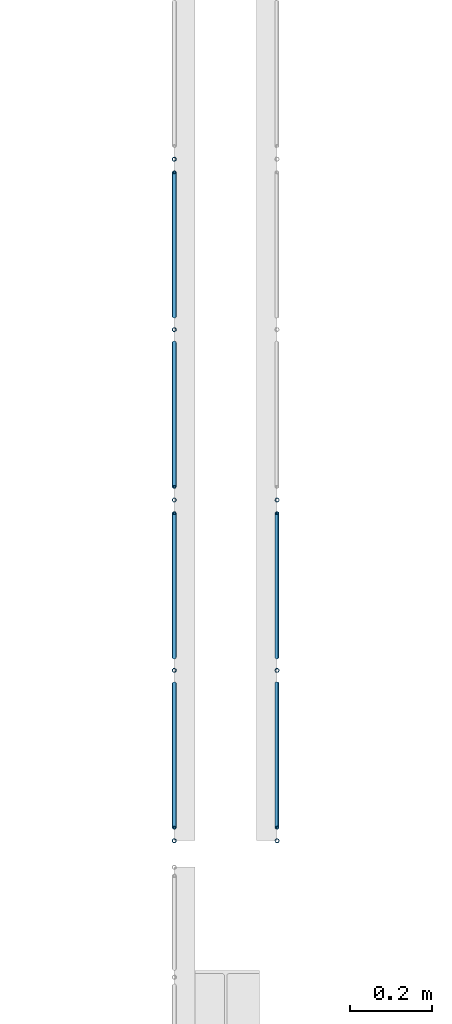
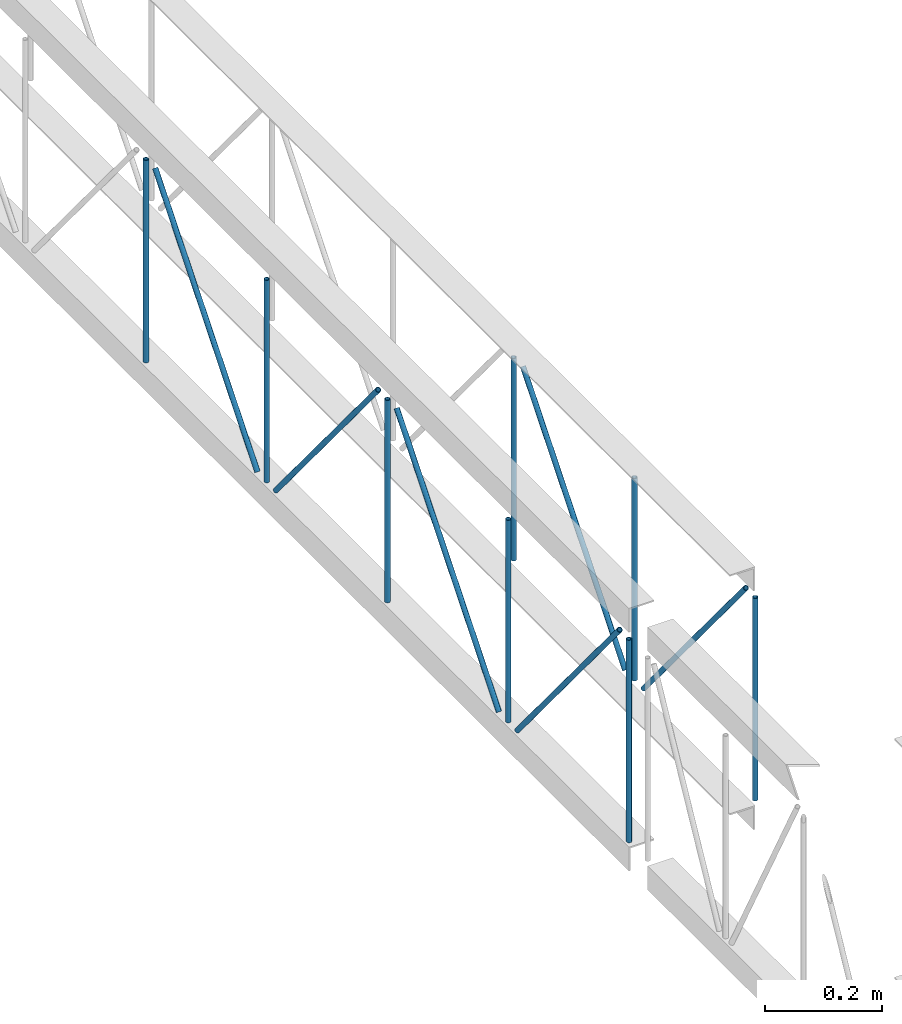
# One storey, part 43 of 153: 14 members, 2 elements without a shape of their own.
"""IFC4 building model written with IfcOpenShell, lengths in metres."""

from ifc_helpers import new_model, entity, si_unit, converted_unit, derived_unit, direction, frame, origin, place, context, subcontext, project, spatial, arc, indexed_curve, outline, extrude, source, transform, mapped, material, type_object, type_shapes, element, aggregate, save


model = new_model("IFC4")

# Units and contexts
model_context = context("Model", 3, precision=1e-05, world=origin(), true_north=direction((6.123031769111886e-17, 1.0)))
body_context = subcontext(model_context, "Body", "Model", "MODEL_VIEW")
ifc_project = project(units=[si_unit("LENGTHUNIT", "METRE"), si_unit("AREAUNIT", "SQUARE_METRE"), si_unit("VOLUMEUNIT", "CUBIC_METRE"), converted_unit("PLANEANGLEUNIT", "DEGREE", entity("IfcRatioMeasure", 0.017453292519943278), si_unit("PLANEANGLEUNIT", "RADIAN"), dimensions=[0, 0, 0, 0, 0, 0, 0]), si_unit("MASSUNIT", "GRAM", prefix="KILO"), derived_unit("MASSDENSITYUNIT", [(si_unit("MASSUNIT", "GRAM", prefix="KILO"), 1), (si_unit("LENGTHUNIT", "METRE"), -3)]), derived_unit("MOMENTOFINERTIAUNIT", [(si_unit("LENGTHUNIT", "METRE"), 4)]), si_unit("TIMEUNIT", "SECOND"), si_unit("FREQUENCYUNIT", "HERTZ"), si_unit("THERMODYNAMICTEMPERATUREUNIT", "DEGREE_CELSIUS"), derived_unit("THERMALTRANSMITTANCEUNIT", [(si_unit("MASSUNIT", "GRAM", prefix="KILO"), 1), (si_unit("THERMODYNAMICTEMPERATUREUNIT", "KELVIN"), -1), (si_unit("TIMEUNIT", "SECOND"), -3)]), derived_unit("VOLUMETRICFLOWRATEUNIT", [(si_unit("LENGTHUNIT", "METRE"), 3), (si_unit("TIMEUNIT", "SECOND"), -1)]), derived_unit("MASSFLOWRATEUNIT", [(si_unit("MASSUNIT", "GRAM", prefix="KILO"), 1), (si_unit("TIMEUNIT", "SECOND"), -1)]), derived_unit("ROTATIONALFREQUENCYUNIT", [(si_unit("TIMEUNIT", "SECOND"), -1)]), si_unit("ELECTRICCURRENTUNIT", "AMPERE"), si_unit("ELECTRICVOLTAGEUNIT", "VOLT"), si_unit("POWERUNIT", "WATT"), si_unit("FORCEUNIT", "NEWTON", prefix="KILO"), si_unit("ILLUMINANCEUNIT", "LUX"), si_unit("LUMINOUSFLUXUNIT", "LUMEN"), si_unit("LUMINOUSINTENSITYUNIT", "CANDELA"), derived_unit("USERDEFINED", [(si_unit("MASSUNIT", "GRAM", prefix="KILO"), -1), (si_unit("LENGTHUNIT", "METRE"), -2), (si_unit("TIMEUNIT", "SECOND"), 3), (si_unit("LUMINOUSFLUXUNIT", "LUMEN"), 1)]), derived_unit("SOUNDPOWERUNIT", [(si_unit("MASSUNIT", "GRAM", prefix="KILO"), 1), (si_unit("LENGTHUNIT", "METRE"), 2), (si_unit("TIMEUNIT", "SECOND"), -3)]), derived_unit("SOUNDPRESSUREUNIT", [(si_unit("MASSUNIT", "GRAM", prefix="KILO"), 1), (si_unit("LENGTHUNIT", "METRE"), -1), (si_unit("TIMEUNIT", "SECOND"), -2)]), derived_unit("LINEARVELOCITYUNIT", [(si_unit("LENGTHUNIT", "METRE"), 1), (si_unit("TIMEUNIT", "SECOND"), -1)]), si_unit("PRESSUREUNIT", "PASCAL"), derived_unit("USERDEFINED", [(si_unit("LENGTHUNIT", "METRE"), -2), (si_unit("MASSUNIT", "GRAM", prefix="KILO"), 1), (si_unit("TIMEUNIT", "SECOND"), -2)]), derived_unit("LINEARFORCEUNIT", [(si_unit("MASSUNIT", "GRAM", prefix="KILO"), 1), (si_unit("LENGTHUNIT", "METRE"), 1), (si_unit("TIMEUNIT", "SECOND"), -2), (si_unit("LENGTHUNIT", "METRE"), -1)]), derived_unit("PLANARFORCEUNIT", [(si_unit("MASSUNIT", "GRAM", prefix="KILO"), 1), (si_unit("LENGTHUNIT", "METRE"), 1), (si_unit("TIMEUNIT", "SECOND"), -2), (si_unit("LENGTHUNIT", "METRE"), -2)])], contexts=[model_context])

# Site, building, storey
site_placement = place(None, origin())
site = spatial("IfcSite", under=ifc_project, at=site_placement, Name="Superficie", CompositionType="ELEMENT")
building_placement = place(site_placement, origin())
building = spatial("IfcBuilding", under=site, at=building_placement, CompositionType="ELEMENT")
storey_placement = place(building_placement, frame((0.0, 0.0, 3.5999999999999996)))
storey = spatial("IfcBuildingStorey", under=building, at=storey_placement, Name="Nivel 1", CompositionType="ELEMENT", Elevation=3.5999999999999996)

# Assembly, members
assembly_1_placement = place(storey_placement, origin())
assembly_1 = element("IfcElementAssembly", 1, at=assembly_1_placement, inside=storey, Name="Viga de celosia 13:Viga de celosia 13", ObjectType="Viga de celosia 13:Viga de celosia 13", AssemblyPlace="NOTDEFINED", PredefinedType="TRUSS")
ifc_material = material(Name="Metal - Calibre delgado", Category="Metal")
member_type_1 = type_object("IfcMemberType", Name="HSS-Tubo estructural redondo:HSS 0.01", PredefinedType="BRACE", material=ifc_material)
shared_shape_1 = source(origin(), body_context, "Body", "SweptSolid", [
    extrude(outline(indexed_curve([(-0.005000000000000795, 7.502054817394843e-18), (-9.800269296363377e-18, -0.005000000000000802), (0.005000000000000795, -7.502054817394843e-18), (8.07772287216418e-18, 0.005000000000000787)], segments=[arc(1, 2, 3), arc(3, 4, 1)], self_intersect=False), holes=[indexed_curve([(0.003999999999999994, 7.222511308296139e-17), (6.910645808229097e-17, -0.004000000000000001), (-0.003999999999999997, -1.8650054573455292e-17), (-2.9156497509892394e-17, 0.003999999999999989)], segments=[arc(1, 2, 3), arc(3, 4, 1)], self_intersect=False)]), frame((-0.21200000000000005, 0.0, 0.0), z_axis=(1.0, 0.0, 0.0), x_axis=(0.0, 1.0, 0.0)), (0.0, 0.0, 1.0), 0.4240000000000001),
])
type_shapes(member_type_1, [shared_shape_1])
member_1_placement = place(assembly_1_placement, frame((-8.863200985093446, -9.134451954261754, 0.25), z_axis=(0.0, 1.0, 0.0), x_axis=(0.0, 0.0, 1.0)))
member_1 = element("IfcMember", 2, at=member_1_placement, type_object=member_type_1, material=ifc_material, Name="HSS-Tubo estructural redondo:HSS 0.01", ObjectType="HSS-Tubo estructural redondo:HSS 0.01", PredefinedType="BRACE", context=body_context, shape_type="MappedRepresentation", body=[
    mapped(shared_shape_1, transform((0.0, 0.0, 0.0), scale=1.0)),
])
member_2_placement = place(assembly_1_placement, frame((-8.863200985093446, -8.720105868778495, 0.25), z_axis=(0.0, 1.0, 0.0), x_axis=(0.0, 0.0, 1.0)))
member_2 = element("IfcMember", 3, at=member_2_placement, type_object=member_type_1, material=ifc_material, Name="HSS-Tubo estructural redondo:HSS 0.01", ObjectType="HSS-Tubo estructural redondo:HSS 0.01", PredefinedType="BRACE", context=body_context, shape_type="MappedRepresentation", body=[
    mapped(shared_shape_1, transform((0.0, 0.0, 0.0), scale=1.0)),
])
member_3_placement = place(assembly_1_placement, frame((-8.863200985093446, -8.305759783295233, 0.25), z_axis=(0.0, 1.0, 0.0), x_axis=(0.0, 0.0, 1.0)))
member_3 = element("IfcMember", 4, at=member_3_placement, type_object=member_type_1, material=ifc_material, Name="HSS-Tubo estructural redondo:HSS 0.01", ObjectType="HSS-Tubo estructural redondo:HSS 0.01", PredefinedType="BRACE", context=body_context, shape_type="MappedRepresentation", body=[
    mapped(shared_shape_1, transform((0.0, 0.0, 0.0), scale=1.0)),
])
member_4_placement = place(assembly_1_placement, frame((-8.863200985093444, -7.891413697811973, 0.25), z_axis=(0.0, 1.0, 0.0), x_axis=(0.0, 0.0, 1.0)))
member_4 = element("IfcMember", 5, at=member_4_placement, type_object=member_type_1, material=ifc_material, Name="HSS-Tubo estructural redondo:HSS 0.01", ObjectType="HSS-Tubo estructural redondo:HSS 0.01", PredefinedType="BRACE", context=body_context, shape_type="MappedRepresentation", body=[
    mapped(shared_shape_1, transform((0.0, 0.0, 0.0), scale=1.0)),
])
member_5_placement = place(assembly_1_placement, frame((-8.863200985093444, -7.477067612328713, 0.25), z_axis=(0.0, 1.0, 0.0), x_axis=(0.0, 0.0, 1.0)))
member_5 = element("IfcMember", 6, at=member_5_placement, type_object=member_type_1, material=ifc_material, Name="HSS-Tubo estructural redondo:HSS 0.01", ObjectType="HSS-Tubo estructural redondo:HSS 0.01", PredefinedType="BRACE", context=body_context, shape_type="MappedRepresentation", body=[
    mapped(shared_shape_1, transform((0.0, 0.0, 0.0), scale=1.0)),
])
member_type_2 = type_object("IfcMemberType", Name="HSS-Tubo estructural redondo:HSS 0.01", PredefinedType="BRACE", material=ifc_material)
shared_shape_2 = source(origin(), body_context, "Body", "SweptSolid", [
    extrude(outline(indexed_curve([(-0.005000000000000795, 7.502054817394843e-18), (-9.800269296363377e-18, -0.005000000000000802), (0.005000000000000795, -7.502054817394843e-18), (8.07772287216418e-18, 0.005000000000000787)], segments=[arc(1, 2, 3), arc(3, 4, 1)], self_intersect=False), holes=[indexed_curve([(0.003999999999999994, 7.222511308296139e-17), (6.910645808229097e-17, -0.004000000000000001), (-0.003999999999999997, -1.8650054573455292e-17), (-2.9156497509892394e-17, 0.003999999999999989)], segments=[arc(1, 2, 3), arc(3, 4, 1)], self_intersect=False)]), frame((-0.275, 0.0, 0.0), z_axis=(1.0, 0.0, 0.0), x_axis=(0.0, 1.0, 0.0)), (0.0, 0.0, 1.0), 0.55),
])
type_shapes(member_type_2, [shared_shape_2])
member_6_placement = place(assembly_1_placement, frame((-8.863200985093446, -8.927278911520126, 0.25), z_axis=(0.0, -0.7699758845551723, -0.638072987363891), x_axis=(0.0, 0.638072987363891, -0.7699758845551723)))
member_6 = element("IfcMember", 7, at=member_6_placement, type_object=member_type_2, material=ifc_material, Name="HSS-Tubo estructural redondo:HSS 0.01", ObjectType="HSS-Tubo estructural redondo:HSS 0.01", PredefinedType="BRACE", context=body_context, shape_type="MappedRepresentation", body=[
    mapped(shared_shape_2, transform((0.0, 0.0, 0.0), scale=1.0)),
])
member_7_placement = place(assembly_1_placement, frame((-8.863200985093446, -8.512932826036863, 0.25), z_axis=(0.0, 0.7699758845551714, -0.638072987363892), x_axis=(0.0, 0.638072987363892, 0.7699758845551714)))
member_7 = element("IfcMember", 8, at=member_7_placement, type_object=member_type_2, material=ifc_material, Name="HSS-Tubo estructural redondo:HSS 0.01", ObjectType="HSS-Tubo estructural redondo:HSS 0.01", PredefinedType="BRACE", context=body_context, shape_type="MappedRepresentation", body=[
    mapped(shared_shape_2, transform((0.0, 0.0, 0.0), scale=1.0)),
])
member_8_placement = place(assembly_1_placement, frame((-8.863200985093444, -8.098586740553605, 0.25), z_axis=(0.0, -0.7699758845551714, -0.638072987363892), x_axis=(0.0, 0.638072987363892, -0.7699758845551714)))
member_8 = element("IfcMember", 9, at=member_8_placement, type_object=member_type_2, material=ifc_material, Name="HSS-Tubo estructural redondo:HSS 0.01", ObjectType="HSS-Tubo estructural redondo:HSS 0.01", PredefinedType="BRACE", context=body_context, shape_type="MappedRepresentation", body=[
    mapped(shared_shape_2, transform((0.0, 0.0, 0.0), scale=1.0)),
])
member_9_placement = place(assembly_1_placement, frame((-8.863200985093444, -7.684240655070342, 0.25), z_axis=(0.0, 0.7699758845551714, -0.638072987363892), x_axis=(0.0, 0.638072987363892, 0.7699758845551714)))
member_9 = element("IfcMember", 10, at=member_9_placement, type_object=member_type_2, material=ifc_material, Name="HSS-Tubo estructural redondo:HSS 0.01", ObjectType="HSS-Tubo estructural redondo:HSS 0.01", PredefinedType="BRACE", context=body_context, shape_type="MappedRepresentation", body=[
    mapped(shared_shape_2, transform((0.0, 0.0, 0.0), scale=1.0)),
])
aggregate(assembly_1, [member_1, member_2, member_3, member_4, member_5, member_6, member_7, member_8, member_9])

assembly_2_placement = place(storey_placement, origin())
assembly_2 = element("IfcElementAssembly", 11, at=assembly_2_placement, inside=storey, Name="Viga de celosia 13:Viga de celosia 13", ObjectType="Viga de celosia 13:Viga de celosia 13", AssemblyPlace="NOTDEFINED", PredefinedType="TRUSS")
member_type_3 = type_object("IfcMemberType", Name="HSS-Tubo estructural redondo:HSS 0.01", PredefinedType="BRACE", material=ifc_material)
shared_shape_3 = source(origin(), body_context, "Body", "SweptSolid", [
    extrude(outline(indexed_curve([(-0.005000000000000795, 2.0824731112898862e-17), (-2.3122945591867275e-17, -0.005000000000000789), (0.005000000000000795, -2.08247311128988e-17), (2.14003991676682e-17, 0.005000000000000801)], segments=[arc(1, 2, 3), arc(3, 4, 1)], self_intersect=False), holes=[indexed_curve([(0.003999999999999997, -1.3094283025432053e-17), (-1.531427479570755e-18, -0.003999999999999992), (-0.004, 4.0098531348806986e-17), (4.1481388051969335e-17, 0.0039999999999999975)], segments=[arc(1, 2, 3), arc(3, 4, 1)], self_intersect=False)]), frame((-0.21200000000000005, 0.0, 0.0), z_axis=(1.0, 0.0, 0.0), x_axis=(0.0, -1.0, 0.0)), (0.0, 0.0, 1.0), 0.4240000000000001),
])
type_shapes(member_type_3, [shared_shape_3])
member_10_placement = place(assembly_2_placement, frame((-8.61320098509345, -9.134451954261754, 0.25), z_axis=(0.0, 1.0, 0.0), x_axis=(0.0, 0.0, 1.0)))
member_10 = element("IfcMember", 12, at=member_10_placement, type_object=member_type_3, material=ifc_material, Name="HSS-Tubo estructural redondo:HSS 0.01", ObjectType="HSS-Tubo estructural redondo:HSS 0.01", PredefinedType="BRACE", context=body_context, shape_type="MappedRepresentation", body=[
    mapped(shared_shape_3, transform((0.0, 0.0, 0.0), scale=1.0)),
])
member_11_placement = place(assembly_2_placement, frame((-8.61320098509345, -8.720105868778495, 0.25), z_axis=(0.0, 1.0, 0.0), x_axis=(0.0, 0.0, 1.0)))
member_11 = element("IfcMember", 13, at=member_11_placement, type_object=member_type_3, material=ifc_material, Name="HSS-Tubo estructural redondo:HSS 0.01", ObjectType="HSS-Tubo estructural redondo:HSS 0.01", PredefinedType="BRACE", context=body_context, shape_type="MappedRepresentation", body=[
    mapped(shared_shape_3, transform((0.0, 0.0, 0.0), scale=1.0)),
])
member_12_placement = place(assembly_2_placement, frame((-8.61320098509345, -8.305759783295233, 0.25), z_axis=(0.0, 1.0, 0.0), x_axis=(0.0, 0.0, 1.0)))
member_12 = element("IfcMember", 14, at=member_12_placement, type_object=member_type_3, material=ifc_material, Name="HSS-Tubo estructural redondo:HSS 0.01", ObjectType="HSS-Tubo estructural redondo:HSS 0.01", PredefinedType="BRACE", context=body_context, shape_type="MappedRepresentation", body=[
    mapped(shared_shape_3, transform((0.0, 0.0, 0.0), scale=1.0)),
])
member_type_4 = type_object("IfcMemberType", Name="HSS-Tubo estructural redondo:HSS 0.01", PredefinedType="BRACE", material=ifc_material)
shared_shape_4 = source(origin(), body_context, "Body", "SweptSolid", [
    extrude(outline(indexed_curve([(-0.005000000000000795, 2.0824731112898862e-17), (-2.3122945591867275e-17, -0.005000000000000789), (0.005000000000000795, -2.08247311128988e-17), (2.14003991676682e-17, 0.005000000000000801)], segments=[arc(1, 2, 3), arc(3, 4, 1)], self_intersect=False), holes=[indexed_curve([(0.003999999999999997, -1.3094283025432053e-17), (-1.531427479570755e-18, -0.003999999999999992), (-0.004, 4.0098531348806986e-17), (4.1481388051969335e-17, 0.0039999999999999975)], segments=[arc(1, 2, 3), arc(3, 4, 1)], self_intersect=False)]), frame((-0.275, 0.0, 0.0), z_axis=(1.0, 0.0, 0.0), x_axis=(0.0, -1.0, 0.0)), (0.0, 0.0, 1.0), 0.55),
])
type_shapes(member_type_4, [shared_shape_4])
member_13_placement = place(assembly_2_placement, frame((-8.61320098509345, -8.927278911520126, 0.25), z_axis=(0.0, -0.7699758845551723, -0.638072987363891), x_axis=(0.0, 0.638072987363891, -0.7699758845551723)))
member_13 = element("IfcMember", 15, at=member_13_placement, type_object=member_type_4, material=ifc_material, Name="HSS-Tubo estructural redondo:HSS 0.01", ObjectType="HSS-Tubo estructural redondo:HSS 0.01", PredefinedType="BRACE", context=body_context, shape_type="MappedRepresentation", body=[
    mapped(shared_shape_4, transform((0.0, 0.0, 0.0), scale=1.0)),
])
member_14_placement = place(assembly_2_placement, frame((-8.61320098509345, -8.512932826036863, 0.25), z_axis=(0.0, 0.7699758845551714, -0.638072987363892), x_axis=(0.0, 0.638072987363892, 0.7699758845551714)))
member_14 = element("IfcMember", 16, at=member_14_placement, type_object=member_type_4, material=ifc_material, Name="HSS-Tubo estructural redondo:HSS 0.01", ObjectType="HSS-Tubo estructural redondo:HSS 0.01", PredefinedType="BRACE", context=body_context, shape_type="MappedRepresentation", body=[
    mapped(shared_shape_4, transform((0.0, 0.0, 0.0), scale=1.0)),
])
aggregate(assembly_2, [member_10, member_11, member_12, member_13, member_14])

save(model, "model.ifc")
